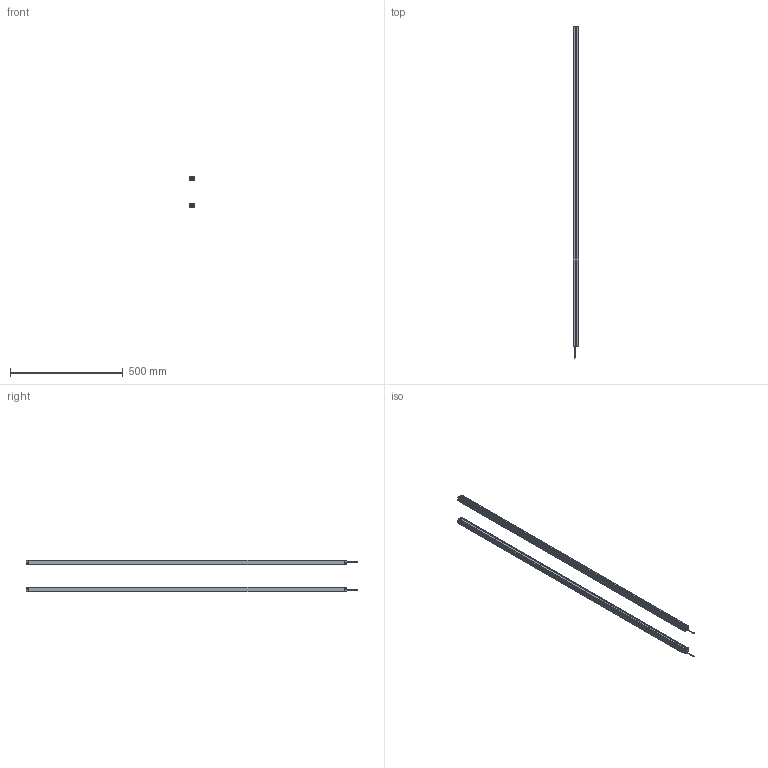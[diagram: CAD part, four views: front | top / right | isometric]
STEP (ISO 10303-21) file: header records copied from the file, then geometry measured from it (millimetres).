
FILE_DESCRIPTION (( 'STEP AP214' ), '1' );
FILE_NAME ('MTC7020.STEP', '2022-08-02T09:11:36', ( '' ), ( '' ), 'SwSTEP 2.0', 'SolidWorks 2018', '' );
FILE_SCHEMA (( 'AUTOMOTIVE_DESIGN' ));
Length unit declared in the file: millimetre
Products named in the file (5): 噩砃P02^MTC; MTC waike^MTC; MTC7020; P02^MTC; P01^MTC
Assembly tree (6 placements, depth 2):
  MTC7020
    MTC waike^MTC  x2
    P01^MTC  x2
    P02^MTC
    噩砃P02^MTC
Bounding box: 25 x 1472 x 141.4 mm (x, y, z)
Volume: 464794.2 mm3; surface area: 647772.9 mm2
Topology: 8 solids, 8 shells, 480 faces, 1396 edges, 924 vertices
Faces by surface type: plane 272, cylinder 208
Entity records: 10886 total; most frequent: DIRECTION 1881, CARTESIAN_POINT 1878, ORIENTED_EDGE 1846, EDGE_CURVE 923, AXIS2_PLACEMENT_3D 637, VERTEX_POINT 610, VECTOR 607, LINE 607
